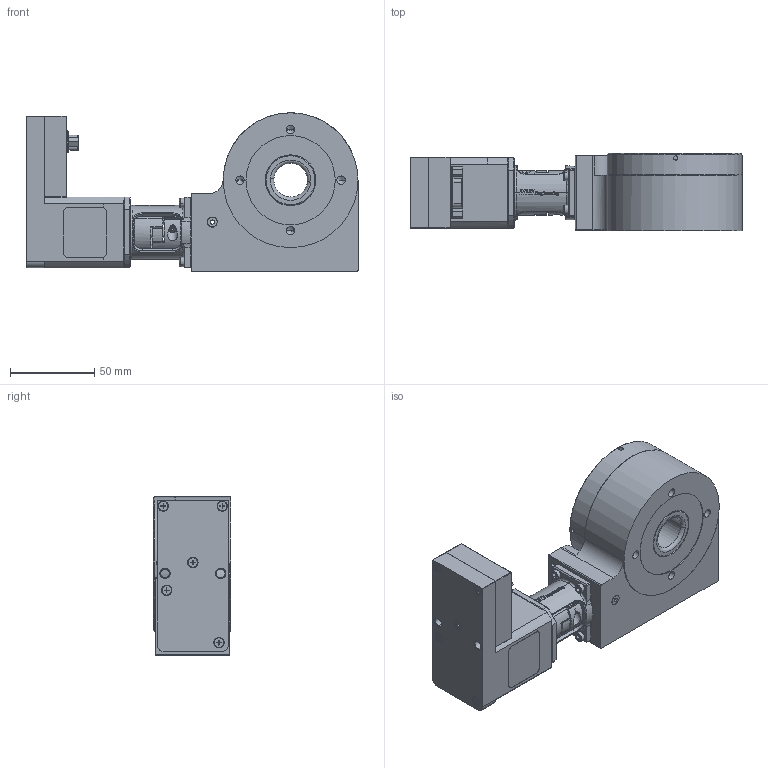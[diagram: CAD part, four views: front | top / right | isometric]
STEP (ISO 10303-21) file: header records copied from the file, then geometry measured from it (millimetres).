
FILE_DESCRIPTION (( 'STEP AP203' ), '1' );
FILE_NAME ('MDT36012-S.STEP', '2015-12-15T07:55:18', ( '' ), ( '' ), 'SwSTEP 2.0', 'SolidWorks 2014', '' );
FILE_SCHEMA (( 'CONFIG_CONTROL_DESIGN' ));
Length unit declared in the file: millimetre
Products named in the file (4): MDT36012-S; MDT36012-000-01-Gehäuse-komplett; MDT36012-000-02-Drehscheibe-komplett; Schrittmotor-mit-Steuerung-GSMS17_n_Standard
Assembly tree (3 placements, depth 2):
  MDT36012-S
    MDT36012-000-01-Gehäuse-komplett
    MDT36012-000-02-Drehscheibe-komplett
    Schrittmotor-mit-Steuerung-GSMS17_n_Standard
Bounding box: 197 x 46 x 94 mm (x, y, z)
Volume: 295859.8 mm3; surface area: 131262 mm2
Topology: 6 solids, 33 shells, 2089 faces, 5427 edges, 3467 vertices
Faces by surface type: cylinder 755, plane 632, bspline 315, cone 243, torus 129, sphere 15
Entity records: 82493 total; most frequent: CARTESIAN_POINT 34267, ORIENTED_EDGE 10642, DIRECTION 8779, EDGE_CURVE 5337, VERTEX_POINT 3452, AXIS2_PLACEMENT_3D 3397, EDGE_LOOP 2350, FACE_OUTER_BOUND 2089
